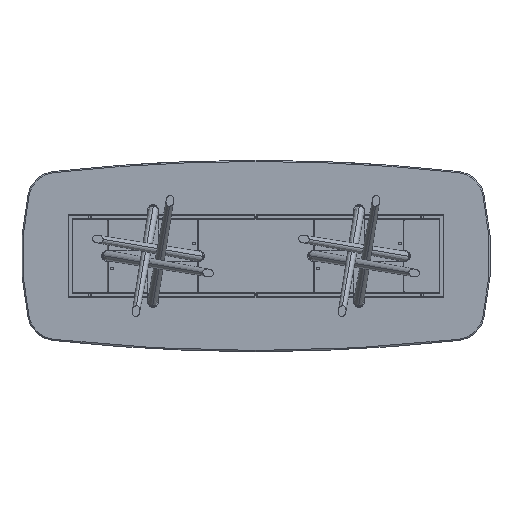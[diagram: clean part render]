
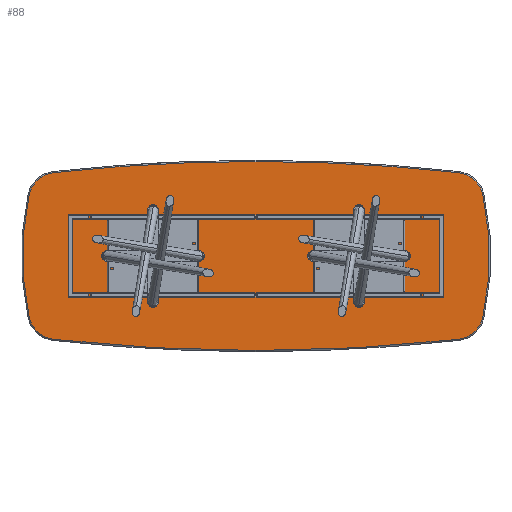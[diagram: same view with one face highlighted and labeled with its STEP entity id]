
A CAD part, front view. The second image highlights one B-rep face of the part: STEP entity #88.
In plain terms, the highlighted planar face has unit normal (0, -1, 0).
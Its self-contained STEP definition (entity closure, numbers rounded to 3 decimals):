
#88 = ADVANCED_FACE ( 'NONE', ( #10650 ), #3548, .F. ) ;
#542 = ORIENTED_EDGE ( 'NONE', *, *, #2623, .T. ) ;
#553 = DIRECTION ( 'NONE',  ( 0., -1., 0. ) ) ;
#717 = EDGE_CURVE ( 'NONE', #10625, #3297, #4942, .T. ) ;
#1018 = CIRCLE ( 'NONE', #7040, 192. ) ;
#1116 = CARTESIAN_POINT ( 'NONE',  ( 1353.044, 0., -375.354 ) ) ;
#1207 = CARTESIAN_POINT ( 'NONE',  ( -1353.044, 0., -375.354 ) ) ;
#1252 = CARTESIAN_POINT ( 'NONE',  ( 0., 0., -11850. ) ) ;
#1350 = DIRECTION ( 'NONE',  ( 0., -1., 0. ) ) ;
#1458 = DIRECTION ( 'NONE',  ( 0., 0., 1. ) ) ;
#1467 = CARTESIAN_POINT ( 'NONE',  ( 1540.305, 0., 417.747 ) ) ;
#1775 = CARTESIAN_POINT ( 'NONE',  ( -1353.044, 0., 375.354 ) ) ;
#1913 = CARTESIAN_POINT ( 'NONE',  ( -1374.165, 0., -566.188 ) ) ;
#1918 = AXIS2_PLACEMENT_3D ( 'NONE', #10529, #12772, #3429 ) ;
#2623 = EDGE_CURVE ( 'NONE', #10840, #12151, #9084, .T. ) ;
#2907 = ORIENTED_EDGE ( 'NONE', *, *, #6573, .T. ) ;
#2917 = CARTESIAN_POINT ( 'NONE',  ( 1374.165, 0., 566.188 ) ) ;
#3117 = VERTEX_POINT ( 'NONE', #1913 ) ;
#3167 = DIRECTION ( 'NONE',  ( 0., -1., 0. ) ) ;
#3297 = VERTEX_POINT ( 'NONE', #11297 ) ;
#3309 = DIRECTION ( 'NONE',  ( 0., -1., 0. ) ) ;
#3429 = DIRECTION ( 'NONE',  ( 0., 0., 1. ) ) ;
#3430 = VERTEX_POINT ( 'NONE', #12024 ) ;
#3548 = PLANE ( 'NONE',  #1918 ) ;
#4184 = DIRECTION ( 'NONE',  ( 0., 0., 1. ) ) ;
#4253 = VERTEX_POINT ( 'NONE', #1467 ) ;
#4518 = EDGE_CURVE ( 'NONE', #3297, #4770, #12844, .T. ) ;
#4770 = VERTEX_POINT ( 'NONE', #11071 ) ;
#4827 = ORIENTED_EDGE ( 'NONE', *, *, #6021, .T. ) ;
#4942 = CIRCLE ( 'NONE', #12486, 12492. ) ;
#5008 = EDGE_CURVE ( 'NONE', #12151, #4253, #5544, .T. ) ;
#5304 = DIRECTION ( 'NONE',  ( 0., 0., 1. ) ) ;
#5345 = AXIS2_PLACEMENT_3D ( 'NONE', #8439, #3309, #6722 ) ;
#5493 = CARTESIAN_POINT ( 'NONE',  ( 1353.044, 0., 375.354 ) ) ;
#5544 = CIRCLE ( 'NONE', #5345, 1892. ) ;
#6008 = ORIENTED_EDGE ( 'NONE', *, *, #12013, .T. ) ;
#6021 = EDGE_CURVE ( 'NONE', #11562, #3117, #7034, .T. ) ;
#6134 = EDGE_CURVE ( 'NONE', #3117, #10840, #6821, .T. ) ;
#6206 = CARTESIAN_POINT ( 'NONE',  ( 0., 0., 11850. ) ) ;
#6573 = EDGE_CURVE ( 'NONE', #3430, #11562, #13289, .T. ) ;
#6722 = DIRECTION ( 'NONE',  ( 0., 0., 1. ) ) ;
#6821 = CIRCLE ( 'NONE', #7046, 12492. ) ;
#6823 = AXIS2_PLACEMENT_3D ( 'NONE', #5493, #10702, #1458 ) ;
#7034 = CIRCLE ( 'NONE', #11788, 192. ) ;
#7040 = AXIS2_PLACEMENT_3D ( 'NONE', #1775, #553, #12896 ) ;
#7046 = AXIS2_PLACEMENT_3D ( 'NONE', #6206, #1350, #7484 ) ;
#7129 = ORIENTED_EDGE ( 'NONE', *, *, #5008, .T. ) ;
#7176 = DIRECTION ( 'NONE',  ( 0., 0., 1. ) ) ;
#7484 = DIRECTION ( 'NONE',  ( 0., 0., 1. ) ) ;
#7514 = CARTESIAN_POINT ( 'NONE',  ( 1374.165, 0., -566.188 ) ) ;
#7875 = DIRECTION ( 'NONE',  ( 0., 0., 1. ) ) ;
#7893 = ORIENTED_EDGE ( 'NONE', *, *, #4518, .T. ) ;
#7954 = ORIENTED_EDGE ( 'NONE', *, *, #6134, .T. ) ;
#7978 = ORIENTED_EDGE ( 'NONE', *, *, #717, .T. ) ;
#8412 = DIRECTION ( 'NONE',  ( 0., 0., 1. ) ) ;
#8439 = CARTESIAN_POINT ( 'NONE',  ( -305., 0., 0. ) ) ;
#8780 = AXIS2_PLACEMENT_3D ( 'NONE', #1252, #11372, #7176 ) ;
#8915 = ORIENTED_EDGE ( 'NONE', *, *, #11951, .T. ) ;
#9006 = CARTESIAN_POINT ( 'NONE',  ( 1540.305, 0., -417.747 ) ) ;
#9084 = CIRCLE ( 'NONE', #9536, 192. ) ;
#9494 = DIRECTION ( 'NONE',  ( 0., -1., 0. ) ) ;
#9536 = AXIS2_PLACEMENT_3D ( 'NONE', #1116, #11382, #5304 ) ;
#9910 = CARTESIAN_POINT ( 'NONE',  ( -1540.305, 0., -417.747 ) ) ;
#10529 = CARTESIAN_POINT ( 'NONE',  ( -152.5, 0., 5925. ) ) ;
#10575 = CARTESIAN_POINT ( 'NONE',  ( 0., 0., -11850. ) ) ;
#10625 = VERTEX_POINT ( 'NONE', #2917 ) ;
#10650 = FACE_OUTER_BOUND ( 'NONE', #11314, .T. ) ;
#10702 = DIRECTION ( 'NONE',  ( 0., -1., 0. ) ) ;
#10840 = VERTEX_POINT ( 'NONE', #7514 ) ;
#10938 = AXIS2_PLACEMENT_3D ( 'NONE', #10998, #12987, #7875 ) ;
#10998 = CARTESIAN_POINT ( 'NONE',  ( 305., 0., 0. ) ) ;
#11071 = CARTESIAN_POINT ( 'NONE',  ( -1374.165, 0., 566.188 ) ) ;
#11297 = CARTESIAN_POINT ( 'NONE',  ( 0., 0., 642. ) ) ;
#11314 = EDGE_LOOP ( 'NONE', ( #4827, #7954, #542, #7129, #8915, #7978, #7893, #6008, #2907 ) ) ;
#11372 = DIRECTION ( 'NONE',  ( 0., -1., 0. ) ) ;
#11382 = DIRECTION ( 'NONE',  ( 0., -1., 0. ) ) ;
#11562 = VERTEX_POINT ( 'NONE', #9910 ) ;
#11788 = AXIS2_PLACEMENT_3D ( 'NONE', #1207, #3167, #4184 ) ;
#11951 = EDGE_CURVE ( 'NONE', #4253, #10625, #12649, .T. ) ;
#12013 = EDGE_CURVE ( 'NONE', #4770, #3430, #1018, .T. ) ;
#12024 = CARTESIAN_POINT ( 'NONE',  ( -1540.305, 0., 417.747 ) ) ;
#12151 = VERTEX_POINT ( 'NONE', #9006 ) ;
#12486 = AXIS2_PLACEMENT_3D ( 'NONE', #10575, #9494, #8412 ) ;
#12649 = CIRCLE ( 'NONE', #6823, 192. ) ;
#12772 = DIRECTION ( 'NONE',  ( 0., 1., 0. ) ) ;
#12844 = CIRCLE ( 'NONE', #8780, 12492. ) ;
#12896 = DIRECTION ( 'NONE',  ( 0., 0., 1. ) ) ;
#12987 = DIRECTION ( 'NONE',  ( 0., -1., 0. ) ) ;
#13289 = CIRCLE ( 'NONE', #10938, 1892. ) ;
